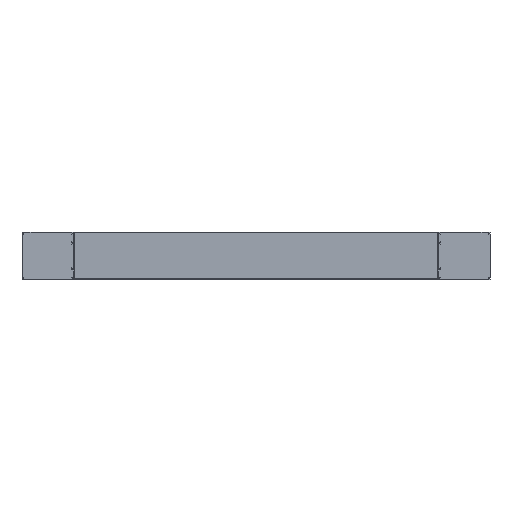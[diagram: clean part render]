
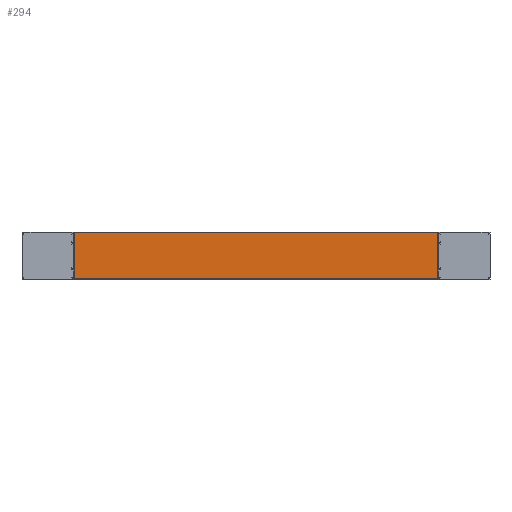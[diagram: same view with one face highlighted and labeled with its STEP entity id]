
A CAD part, top view. The second image highlights one B-rep face of the part: STEP entity #294.
In plain terms, the highlighted planar face has unit normal (0, 0, 1) as drawn and (0, 0, -1) by its records, which use the part's own axes.
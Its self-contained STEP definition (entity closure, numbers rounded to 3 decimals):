
#294 = ADVANCED_FACE( '', ( #563 ), #564, .F. );
#563 = FACE_OUTER_BOUND( '', #819, .T. );
#564 = PLANE( '', #820 );
#819 = EDGE_LOOP( '', ( #1429, #1430, #1431, #1432 ) );
#820 = AXIS2_PLACEMENT_3D( '', #1433, #1434, #1435 );
#1429 = ORIENTED_EDGE( '', *, *, #1802, .T. );
#1430 = ORIENTED_EDGE( '', *, *, #1708, .F. );
#1431 = ORIENTED_EDGE( '', *, *, #1900, .F. );
#1432 = ORIENTED_EDGE( '', *, *, #1901, .T. );
#1433 = CARTESIAN_POINT( '', ( 387., 0., 0. ) );
#1434 = DIRECTION( '', ( 0., 0., 1. ) );
#1435 = DIRECTION( '', ( 1., 0., 0. ) );
#1708 = EDGE_CURVE( '', #2061, #2056, #2063, .T. );
#1802 = EDGE_CURVE( '', #2209, #2056, #2210, .T. );
#1900 = EDGE_CURVE( '', #2348, #2061, #2349, .T. );
#1901 = EDGE_CURVE( '', #2348, #2209, #2350, .T. );
#2056 = VERTEX_POINT( '', #2561 );
#2061 = VERTEX_POINT( '', #2568 );
#2063 = LINE( '', #2571, #2572 );
#2209 = VERTEX_POINT( '', #2785 );
#2210 = LINE( '', #2786, #2787 );
#2348 = VERTEX_POINT( '', #2992 );
#2349 = LINE( '', #2993, #2994 );
#2350 = LINE( '', #2995, #2996 );
#2561 = CARTESIAN_POINT( '', ( -387., 98., 0. ) );
#2568 = CARTESIAN_POINT( '', ( 387., 98., 0. ) );
#2571 = CARTESIAN_POINT( '', ( 387., 98., 0. ) );
#2572 = VECTOR( '', #3127, 1000. );
#2785 = CARTESIAN_POINT( '', ( -387., 0., 0. ) );
#2786 = CARTESIAN_POINT( '', ( -387., 0., 0. ) );
#2787 = VECTOR( '', #3207, 1000. );
#2992 = CARTESIAN_POINT( '', ( 387., 0., 0. ) );
#2993 = CARTESIAN_POINT( '', ( 387., 0., 0. ) );
#2994 = VECTOR( '', #3284, 1000. );
#2995 = CARTESIAN_POINT( '', ( 387., 0., 0. ) );
#2996 = VECTOR( '', #3285, 1000. );
#3127 = DIRECTION( '', ( -1., 0., 0. ) );
#3207 = DIRECTION( '', ( 0., 1., 0. ) );
#3284 = DIRECTION( '', ( 0., 1., 0. ) );
#3285 = DIRECTION( '', ( -1., 0., 0. ) );
